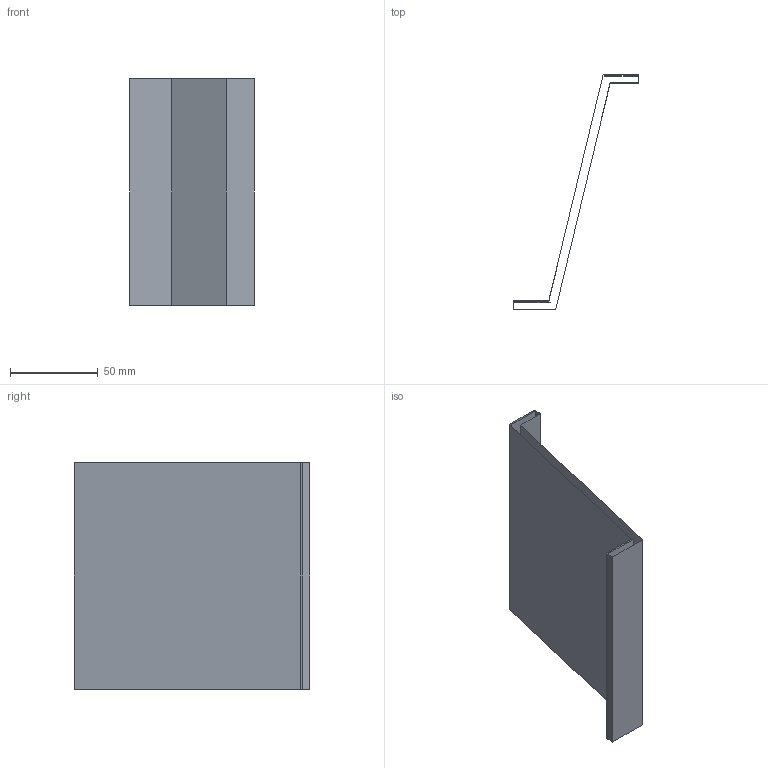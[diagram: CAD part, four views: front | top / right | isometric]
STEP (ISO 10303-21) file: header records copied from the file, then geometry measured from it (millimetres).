
FILE_DESCRIPTION(('CATIA V5 STEP Exchange'),'2;1');
FILE_NAME('C:\_Andres\UNIVERSIDAD\IQS\ASIGNATURAS\DAO\EXF\EXF-16172c\2inicio\Sala_Ferrero_Ej06_v29.stp','2017-03-05T21:01:28+00:00',('none'),('none'),'CATIA Version 5-6 Release 2014 SP1 HF18','CATIA V5 STEP AP203','none');
FILE_SCHEMA(('CONFIG_CONTROL_DESIGN'));
Length unit declared in the file: millimetre
Products named in the file (1): Sala_Ferrero_Ej06_v29
Bounding box: 71 x 134 x 129 mm (x, y, z)
Surface area: 50741.5 mm2 (no closed solid volume)
Topology: 0 solids, 2 shells, 10 faces, 42 edges, 36 vertices
Faces by surface type: plane 10
Entity records: 461 total; most frequent: CARTESIAN_POINT 100, DIRECTION 59, ORIENTED_EDGE 40, VECTOR 39, LINE 39, EDGE_CURVE 32, VERTEX_POINT 24, AXIS2_PLACEMENT_3D 11
